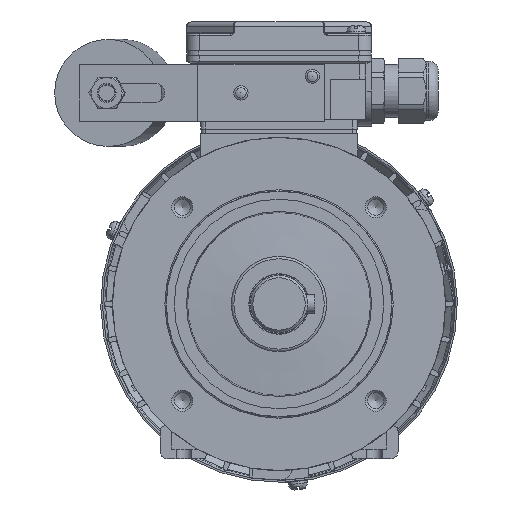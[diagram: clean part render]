
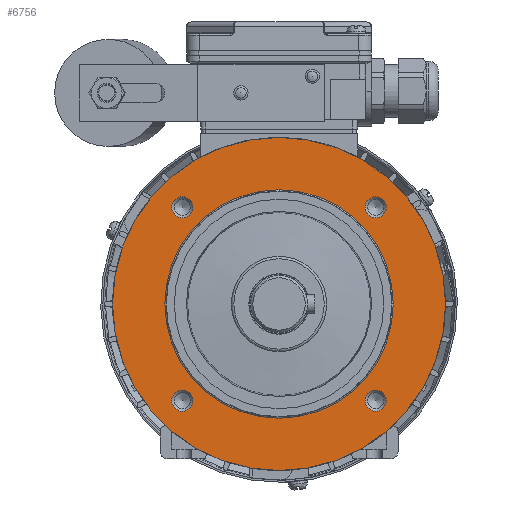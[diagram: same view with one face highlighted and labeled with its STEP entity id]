
A CAD part, left-side view. The second image highlights one B-rep face of the part: STEP entity #6756.
In plain terms, the highlighted planar face has unit normal (-1, 0, 0) as drawn and (0, -1, 0) by its records, which use the part's own axes.
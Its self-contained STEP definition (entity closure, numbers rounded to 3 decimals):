
#6756 = ADVANCED_FACE( '', ( #13891, #13892, #13893, #13894, #13895, #13896 ), #13897, .F. );
#13891 = FACE_BOUND( '', #41098, .T. );
#13892 = FACE_BOUND( '', #41099, .T. );
#13893 = FACE_BOUND( '', #41100, .T. );
#13894 = FACE_BOUND( '', #41101, .T. );
#13895 = FACE_BOUND( '', #41102, .T. );
#13896 = FACE_OUTER_BOUND( '', #41103, .T. );
#13897 = PLANE( '', #41104 );
#41098 = EDGE_LOOP( '', ( #64420 ) );
#41099 = EDGE_LOOP( '', ( #64421 ) );
#41100 = EDGE_LOOP( '', ( #64422 ) );
#41101 = EDGE_LOOP( '', ( #64423 ) );
#41102 = EDGE_LOOP( '', ( #64424 ) );
#41103 = EDGE_LOOP( '', ( #64425 ) );
#41104 = AXIS2_PLACEMENT_3D( '', #64426, #64427, #64428 );
#64420 = ORIENTED_EDGE( '', *, *, #73975, .T. );
#64421 = ORIENTED_EDGE( '', *, *, #74180, .T. );
#64422 = ORIENTED_EDGE( '', *, *, #74294, .T. );
#64423 = ORIENTED_EDGE( '', *, *, #72379, .T. );
#64424 = ORIENTED_EDGE( '', *, *, #73449, .T. );
#64425 = ORIENTED_EDGE( '', *, *, #76344, .T. );
#64426 = CARTESIAN_POINT( '', ( 0., 3., 70. ) );
#64427 = DIRECTION( '', ( 0., 1., 0. ) );
#64428 = DIRECTION( '', ( 0., 0., 1. ) );
#72379 = EDGE_CURVE( '', #84400, #84400, #84401, .T. );
#73449 = EDGE_CURVE( '', #86131, #86131, #86132, .T. );
#73975 = EDGE_CURVE( '', #86894, #86894, #86895, .T. );
#74180 = EDGE_CURVE( '', #87188, #87188, #87189, .T. );
#74294 = EDGE_CURVE( '', #87346, #87346, #87347, .T. );
#76344 = EDGE_CURVE( '', #90018, #90018, #90019, .T. );
#84400 = VERTEX_POINT( '', #108741 );
#84401 = CIRCLE( '', #108742, 4.4 );
#86131 = VERTEX_POINT( '', #112624 );
#86132 = CIRCLE( '', #112625, 48. );
#86894 = VERTEX_POINT( '', #114668 );
#86895 = CIRCLE( '', #114669, 4.4 );
#87188 = VERTEX_POINT( '', #115632 );
#87189 = CIRCLE( '', #115633, 4.4 );
#87346 = VERTEX_POINT( '', #116006 );
#87347 = CIRCLE( '', #116007, 4.4 );
#90018 = VERTEX_POINT( '', #123770 );
#90019 = CIRCLE( '', #123771, 70. );
#108741 = CARTESIAN_POINT( '', ( -40.659, 3., 45.059 ) );
#108742 = AXIS2_PLACEMENT_3D( '', #132086, #132087, #132088 );
#112624 = CARTESIAN_POINT( '', ( 0., 3., 48. ) );
#112625 = AXIS2_PLACEMENT_3D( '', #133720, #133721, #133722 );
#114668 = CARTESIAN_POINT( '', ( -40.659, 3., -36.259 ) );
#114669 = AXIS2_PLACEMENT_3D( '', #134298, #134299, #134300 );
#115632 = CARTESIAN_POINT( '', ( 40.659, 3., -36.259 ) );
#115633 = AXIS2_PLACEMENT_3D( '', #134501, #134502, #134503 );
#116006 = CARTESIAN_POINT( '', ( 40.659, 3., 45.059 ) );
#116007 = AXIS2_PLACEMENT_3D( '', #134625, #134626, #134627 );
#123770 = CARTESIAN_POINT( '', ( 0., 3., -70. ) );
#123771 = AXIS2_PLACEMENT_3D( '', #136855, #136856, #136857 );
#132086 = CARTESIAN_POINT( '', ( -40.659, 3., 40.659 ) );
#132087 = DIRECTION( '', ( 0., 1., 0. ) );
#132088 = DIRECTION( '', ( 0., 0., 1. ) );
#133720 = CARTESIAN_POINT( '', ( 0., 3., 0. ) );
#133721 = DIRECTION( '', ( 0., 1., 0. ) );
#133722 = DIRECTION( '', ( 0., 0., 1. ) );
#134298 = CARTESIAN_POINT( '', ( -40.659, 3., -40.659 ) );
#134299 = DIRECTION( '', ( 0., 1., 0. ) );
#134300 = DIRECTION( '', ( 0., 0., 1. ) );
#134501 = CARTESIAN_POINT( '', ( 40.659, 3., -40.659 ) );
#134502 = DIRECTION( '', ( 0., 1., 0. ) );
#134503 = DIRECTION( '', ( 0., 0., 1. ) );
#134625 = CARTESIAN_POINT( '', ( 40.659, 3., 40.659 ) );
#134626 = DIRECTION( '', ( 0., 1., 0. ) );
#134627 = DIRECTION( '', ( 0., 0., 1. ) );
#136855 = CARTESIAN_POINT( '', ( 0., 3., 0. ) );
#136856 = DIRECTION( '', ( 0., -1., 0. ) );
#136857 = DIRECTION( '', ( 0., 0., -1. ) );
